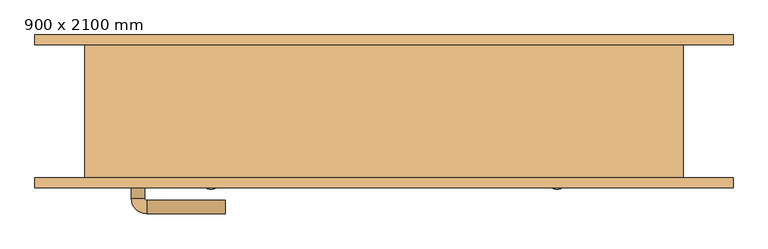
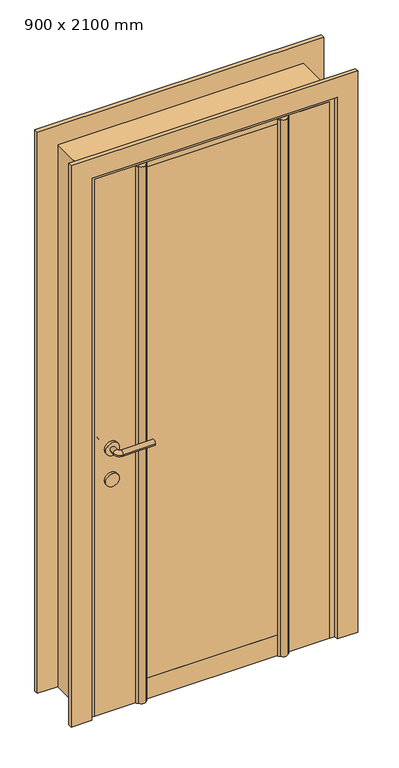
"""IFC4 building model written with IfcOpenShell, lengths in millimetres: door geometry, 单扇平开门-木门 : 900 x 2100 mm."""

import ifcopenshell
import ifcopenshell.guid

model = None  # the IFC model being written
_history = None  # IfcOwnerHistory: only IFC2X3 demands one
_inside = {}  # id of a spatial element -> (the spatial element, [elements in it])
_under = {}  # id of a project, library or spatial element -> (it, [spatial elements below it])
_declared = {}  # id of a project -> (the project, [libraries it declares])
_typed = {}  # id of a type object -> (the type object, [elements of that type])
_made_of = {}  # id of a material, layer set ... -> (it, [elements and type objects made of it])


def new_model(schema):
    """Start an empty IFC model of exactly this schema.

    Asked for "IFC4X3", IfcOpenShell would pick the latest addendum, in which some entities
    have other attributes; the version numbers below select the first issue.
    IFC2X3 requires an IfcOwnerHistory on every rooted entity: one is made here for all.
    """
    global model, _history
    if schema == "IFC4X3":
        model = ifcopenshell.file(schema_version=(4, 3, 0, 0))
    else:
        model = ifcopenshell.file(schema=schema)
    _inside.clear()
    _under.clear()
    _declared.clear()
    _typed.clear()
    _made_of.clear()
    _history = None
    if model.schema == "IFC2X3":
        org = make("IfcOrganization", Name="unknown")
        user = make(
            "IfcPersonAndOrganization",
            ThePerson=make("IfcPerson", FamilyName="unknown"),
            TheOrganization=org,
        )
        app = make(
            "IfcApplication",
            ApplicationDeveloper=org,
            Version="unknown",
            ApplicationFullName="unknown",
            ApplicationIdentifier="unknown",
        )
        _history = make(
            "IfcOwnerHistory",
            OwningUser=user,
            OwningApplication=app,
            ChangeAction="ADDED",
            CreationDate=0,
        )
    return model


def make(cls, **values):
    """One entity of the class cls with the attributes given. An attribute that is None is left unset."""
    return model.create_entity(
        cls, **{name: value for name, value in values.items() if value is not None}
    )


def rooted(cls, **values):
    """An entity with a GlobalId (a new one), such as an element, a storey or a relation."""
    return make(cls, GlobalId=ifcopenshell.guid.new(), OwnerHistory=_history, **values)


def si_unit(unit_type, name, prefix=None):
    """IfcSIUnit, for example si_unit("LENGTHUNIT", "METRE", prefix="MILLI")."""
    return make("IfcSIUnit", UnitType=unit_type, Prefix=prefix, Name=name)


def assignment(units):
    """IfcUnitAssignment: the units of a project."""
    return None if units is None else make("IfcUnitAssignment", Units=units)


def point(xyz):
    """IfcCartesianPoint."""
    return None if xyz is None else make("IfcCartesianPoint", Coordinates=xyz)


def direction(xyz):
    """IfcDirection."""
    return None if xyz is None else make("IfcDirection", DirectionRatios=xyz)


def frame(location, z_axis=None, x_axis=None):
    """IfcAxis2Placement3D, a coordinate frame: its origin and axes. An axis left out is left unset."""
    return make(
        "IfcAxis2Placement3D",
        Location=point(location),
        Axis=direction(z_axis),
        RefDirection=direction(x_axis),
    )


def frame_2d(location, x_axis=None):
    """IfcAxis2Placement2D, a coordinate frame in the plane: its origin and x axis."""
    return make(
        "IfcAxis2Placement2D", Location=point(location), RefDirection=direction(x_axis)
    )


def origin():
    """The frame at (0, 0, 0) with its axes left unset."""
    return frame((0.0, 0.0, 0.0))


def origin_with_axes():
    """The frame at (0, 0, 0) with the z axis (0, 0, 1) and the x axis (1, 0, 0) written out."""
    return frame((0.0, 0.0, 0.0), z_axis=(0.0, 0.0, 1.0), x_axis=(1.0, 0.0, 0.0))


def place(relative_to, where):
    """IfcLocalPlacement: puts the frame where relative to a parent placement (None: the world)."""
    return make(
        "IfcLocalPlacement", PlacementRelTo=relative_to, RelativePlacement=where
    )


def context(
    kind, dimensions, precision=None, world=None, true_north=None, identifier=None
):
    """IfcGeometricRepresentationContext, for example the 3D "Model" context."""
    return make(
        "IfcGeometricRepresentationContext",
        ContextIdentifier=identifier,
        ContextType=kind,
        CoordinateSpaceDimension=dimensions,
        Precision=precision,
        WorldCoordinateSystem=world,
        TrueNorth=true_north,
    )


def project(units=None, contexts=None):
    """IfcProject with its units and contexts."""
    return rooted(
        "IfcProject",
        Name="project",
        RepresentationContexts=contexts,
        UnitsInContext=assignment(units),
    )


def spatial(cls, under=None, at=None, **own):
    """A site, building, storey or space (cls), placed at a placement, below another one or the project."""
    s = rooted(cls, ObjectPlacement=at, **own)
    if under is not None:
        _under.setdefault(under.id(), (under, []))[1].append(s)
    return s


def polyline(points):
    """IfcPolyline through the points."""
    return make("IfcPolyline", Points=[point(p) for p in points])


def circle_curve(where, radius):
    """IfcCircle in the frame where."""
    return make("IfcCircle", Position=where, Radius=radius)


def ellipse_curve(where, semi_axis1, semi_axis2):
    """IfcEllipse in the frame where."""
    return make(
        "IfcEllipse", Position=where, SemiAxis1=semi_axis1, SemiAxis2=semi_axis2
    )


def trimmed(basis, trim1, trim2, sense, master):
    """IfcTrimmedCurve: the piece of a basis curve between two trims."""
    return make(
        "IfcTrimmedCurve",
        BasisCurve=basis,
        Trim1=trim1,
        Trim2=trim2,
        SenseAgreement=sense,
        MasterRepresentation=master,
    )


def segment(curve, same_sense, transition):
    """IfcCompositeCurveSegment."""
    return make(
        "IfcCompositeCurveSegment",
        Transition=transition,
        SameSense=same_sense,
        ParentCurve=curve,
    )


def composite_curve(segments, self_intersect=None):
    """IfcCompositeCurve: segments joined end to end."""
    return make("IfcCompositeCurve", Segments=segments, SelfIntersect=self_intersect)


def outline(outer, holes=None, kind="AREA"):
    """IfcArbitraryClosedProfileDef: a profile drawn as a closed curve; with holes, ...WithVoids."""
    if holes is None:
        return make("IfcArbitraryClosedProfileDef", ProfileType=kind, OuterCurve=outer)
    return make(
        "IfcArbitraryProfileDefWithVoids",
        ProfileType=kind,
        OuterCurve=outer,
        InnerCurves=holes,
    )


def extrude(swept, where, along, depth):
    """IfcExtrudedAreaSolid: the profile swept, set in the frame where, extruded along a direction by depth."""
    return make(
        "IfcExtrudedAreaSolid",
        SweptArea=swept,
        Position=where,
        ExtrudedDirection=direction(along),
        Depth=depth,
    )


def faces_of(points, faces, orient=None, outer=None):
    """IfcFace entities. A face is a list of loops; a loop is a list of indices into points, from 0.

    orient and outer hold one flag for each loop. By default every Orientation is true, the
    first loop of a face is its IfcFaceOuterBound and the others are IfcFaceBound.
    """
    made = []
    for i, loops in enumerate(faces):
        bounds = []
        for j, loop in enumerate(loops):
            is_outer = j == 0 if outer is None else outer[i][j]
            bounds.append(
                make(
                    "IfcFaceOuterBound" if is_outer else "IfcFaceBound",
                    Bound=make("IfcPolyLoop", Polygon=[points[k] for k in loop]),
                    Orientation=True if orient is None else orient[i][j],
                )
            )
        made.append(make("IfcFace", Bounds=bounds))
    return made


def faceted_brep(points, faces, orient=None, outer=None, voids=None):
    """IfcFacetedBrep: a solid bounded by flat faces; with voids (closed shells), ...WithVoids."""
    shared = [point(p) for p in points]
    hull = make("IfcClosedShell", CfsFaces=faces_of(shared, faces, orient, outer))
    if voids is None:
        return make("IfcFacetedBrep", Outer=hull)
    return make(
        "IfcFacetedBrepWithVoids",
        Outer=hull,
        Voids=[
            make(cls, CfsFaces=faces_of(shared, fs, o, b)) for cls, fs, o, b in voids
        ],
    )


def shape(context_of_items, identifier, shape_type, items):
    """IfcShapeRepresentation: the items that make up one representation, for example the "Body"."""
    return make(
        "IfcShapeRepresentation",
        ContextOfItems=context_of_items,
        RepresentationIdentifier=identifier,
        RepresentationType=shape_type,
        Items=items,
    )


def source(mapping_origin, context_of_items, identifier, shape_type, items):
    """IfcRepresentationMap: a shape defined once, which mapped items show again and again."""
    return make(
        "IfcRepresentationMap",
        MappingOrigin=mapping_origin,
        MappedRepresentation=shape(context_of_items, identifier, shape_type, items),
    )


def transform(
    local_origin,
    x_axis=None,
    y_axis=None,
    z_axis=None,
    scale=None,
    scale2=None,
    scale3=None,
    uniform=True,
):
    """IfcCartesianTransformationOperator3D, or its non-uniform kind. x_axis, y_axis, z_axis: its Axis1, 2, 3."""
    if uniform:
        return make(
            "IfcCartesianTransformationOperator3D",
            Axis1=direction(x_axis),
            Axis2=direction(y_axis),
            LocalOrigin=point(local_origin),
            Scale=scale,
            Axis3=direction(z_axis),
        )
    return make(
        "IfcCartesianTransformationOperator3DnonUniform",
        Axis1=direction(x_axis),
        Axis2=direction(y_axis),
        LocalOrigin=point(local_origin),
        Scale=scale,
        Axis3=direction(z_axis),
        Scale2=scale2,
        Scale3=scale3,
    )


def mapped(mapping_source, mapping_target):
    """IfcMappedItem: shows the shape of a source again, moved by a transform."""
    return make(
        "IfcMappedItem", MappingSource=mapping_source, MappingTarget=mapping_target
    )


def made_of(thing, what):
    """Note that an element or type object is made of a material, layer set ...; save() writes the relation."""
    if what is not None:
        _made_of.setdefault(what.id(), (what, []))[1].append(thing)
    return thing


def element(
    cls,
    number,
    at=None,
    inside=None,
    cuts=None,
    type_object=None,
    material=None,
    context=None,
    identifier="Body",
    shape_type=None,
    held_by="IfcProductDefinitionShape",
    body=None,
    shapes=None,
    **own,
):
    """One element of the class cls, such as IfcWall. Its Tag is "e" and its number.

    at: its placement. inside: the storey or other place that contains it. cuts: it is an
    opening in that element (IfcRelVoidsElement). A single representation is given by context,
    identifier, shape_type and body (its items); several are given by shapes. held_by: the class
    of the entity that holds the representations. save() writes the other relations.
    """
    e = rooted(cls, Tag="e%d" % number, ObjectPlacement=at, **own)
    if body is not None:
        shapes = [shape(context, identifier, shape_type, body)]
    if shapes is not None:
        e.Representation = make(held_by, Representations=shapes)
    if inside is not None:
        _inside.setdefault(inside.id(), (inside, []))[1].append(e)
    if cuts is not None:
        rooted(
            "IfcRelVoidsElement", RelatingBuildingElement=cuts, RelatedOpeningElement=e
        )
    if type_object is not None:
        _typed.setdefault(type_object.id(), (type_object, []))[1].append(e)
    return made_of(e, material)


def aggregate(whole, parts):
    """IfcRelAggregates: a whole, such as a stair, and the parts it consists of."""
    return rooted("IfcRelAggregates", RelatingObject=whole, RelatedObjects=parts)


def save(model, path):
    """Write the relations noted so far, then the file.

    IfcRelAggregates (storeys below a building ...), IfcRelContainedInSpatialStructure (elements
    in a storey), IfcRelDefinesByType, IfcRelAssociatesMaterial and IfcRelDeclares: one each for
    every whole, place, type object, material and project.
    """
    for whole, parts in _under.values():
        aggregate(whole, parts)
    for where, things in _inside.values():
        rooted(
            "IfcRelContainedInSpatialStructure",
            RelatedElements=things,
            RelatingStructure=where,
        )
    for kind, things in _typed.values():
        rooted("IfcRelDefinesByType", RelatedObjects=things, RelatingType=kind)
    for what, things in _made_of.values():
        rooted("IfcRelAssociatesMaterial", RelatedObjects=things, RelatingMaterial=what)
    for by, libraries in _declared.values():
        rooted("IfcRelDeclares", RelatingContext=by, RelatedDefinitions=libraries)
    model.write(path)


def plane_surface(at):
    """IfcPlane: the flat surface through the origin of the frame at, square to its z axis."""
    return make("IfcPlane", Position=at)


def cylinder_surface(at, radius):
    """IfcCylindricalSurface: all points at the distance radius from the z axis of the frame at."""
    return make("IfcCylindricalSurface", Position=at, Radius=radius)


def revolved_surface(curve, axis_point, axis_direction):
    """IfcSurfaceOfRevolution: the curve turned about the line through axis_point along axis_direction."""
    return make(
        "IfcSurfaceOfRevolution",
        SweptCurve=make("IfcArbitraryOpenProfileDef", ProfileType="CURVE", Curve=curve),
        AxisPosition=make("IfcAxis1Placement", Location=point(axis_point), Axis=direction(axis_direction)),
    )


def advanced_brep(points, edges, surfaces, faces):
    """IfcAdvancedBrep: a solid bounded by faces that lie on surfaces and meet in shared edges.

    An edge is (start, end): straight between two places in points (the first is 0);
    or (start, end, curve); or (start, end, curve, False) where it runs against its curve.
    A face is (place in surfaces, loops), or (place, loops, False) where it looks against
    its surface's normal. A loop lists edges by number (the first is 1), with a minus sign
    where the edge is run from its end to its start. The first loop is the outer one.
    """
    corners = [point(p) for p in points]
    vertices = [make("IfcVertexPoint", VertexGeometry=c) for c in corners]
    made = []
    for start, end, *more in edges:
        made.append(
            make(
                "IfcEdgeCurve",
                EdgeStart=vertices[start],
                EdgeEnd=vertices[end],
                EdgeGeometry=more[0] if more else make("IfcPolyline", Points=[corners[start], corners[end]]),
                SameSense=more[1] if len(more) > 1 else True,
            )
        )
    hull = []
    for where, loops, *sense in faces:
        bounds = []
        for j, loop in enumerate(loops):
            ring = [make("IfcOrientedEdge", EdgeElement=made[abs(k) - 1], Orientation=k > 0) for k in loop]
            bounds.append(
                make(
                    "IfcFaceOuterBound" if j == 0 else "IfcFaceBound",
                    Bound=make("IfcEdgeLoop", EdgeList=ring),
                    Orientation=True,
                )
            )
        hull.append(make("IfcAdvancedFace", Bounds=bounds, FaceSurface=surfaces[where], SameSense=sense[0] if sense else True))
    return make("IfcAdvancedBrep", Outer=make("IfcClosedShell", CfsFaces=hull))


def door_900_x_2100_mm_c85060e9(model_context):
    return source(origin(), model_context, "Body", "SolidModel", [
        extrude(outline(composite_curve([segment(trimmed(circle_curve(frame_2d((900.0, -370.0)), 25.0), [point((900.0, -345.0))], [point((900.0, -395.0))], False, "CARTESIAN"), True, "CONTINUOUS"), segment(trimmed(circle_curve(frame_2d((900.0, -370.0)), 25.0), [point((900.0, -395.0))], [point((900.0, -345.0))], False, "CARTESIAN"), True, "CONTINUOUS")], self_intersect=False)), frame((0.0, -65.0, 0.0), z_axis=(0.0, 1.0, 0.0), x_axis=(0.0, 0.0, 1.0)), (0.0, 0.0, 1.0), 10.0),
        extrude(outline(composite_curve([segment(trimmed(circle_curve(frame_2d((900.0, -370.0)), 25.0), [point((900.0, -345.0))], [point((900.0, -395.0))], False, "CARTESIAN"), True, "CONTINUOUS"), segment(trimmed(circle_curve(frame_2d((900.0, -370.0)), 25.0), [point((900.0, -395.0))], [point((900.0, -345.0))], False, "CARTESIAN"), True, "CONTINUOUS")], self_intersect=False)), frame((0.0, -110.0, 0.0), z_axis=(0.0, 1.0, 0.0), x_axis=(0.0, 0.0, 1.0)), (0.0, 0.0, 1.0), 10.0),
        advanced_brep(
        [(-380.0, -55.0, 1020.0), (-360.0, -55.0, 1020.0), (-380.0, -34.386645, 1020.0), (-360.0, -34.386645, 1020.0), (-238.419036, -11.419036, 1020.0), (-238.419036, -31.419036, 1020.0), (-357.0323911, -31.419036, 1020.0), (-357.0323911, -11.419036, 1020.0)],
        [
            (0, 1, circle_curve(frame((-370.0, -55.0, 1020.0), z_axis=(0.0, -1.0, 0.0), x_axis=(1.0, 0.0, 0.0)), 10.0)),
            (1, 0, circle_curve(frame((-370.0, -55.0, 1020.0), z_axis=(0.0, -1.0, 0.0), x_axis=(1.0, 0.0, 0.0)), 10.0)),
            (0, 2),
            (2, 3, circle_curve(frame((-370.0, -34.386645, 1020.0), z_axis=(0.0, -1.0, 0.0), x_axis=(1.0, 0.0, 0.0)), 10.0)),
            (3, 1),
            (3, 2, circle_curve(frame((-370.0, -34.386645, 1020.0), z_axis=(0.0, -1.0, 0.0), x_axis=(1.0, 0.0, 0.0)), 10.0)),
            (4, 5, circle_curve(frame((-238.419036, -21.419036, 1020.0), z_axis=(1.0, 0.0, 0.0), x_axis=(0.0, -1.0, 0.0)), 10.0)),
            (5, 4, circle_curve(frame((-238.419036, -21.419036, 1020.0), z_axis=(1.0, 0.0, 0.0), x_axis=(0.0, -1.0, 0.0)), 10.0)),
            (6, 7, circle_curve(frame((-357.0323911, -21.419036, 1020.0), z_axis=(-1.0, 0.0, 0.0), x_axis=(0.0, -1.0, 0.0)), 10.0)),
            (7, 2, circle_curve(frame((-357.0323911, -34.386645, 1020.0), z_axis=(0.0, 0.0, 1.0), x_axis=(-1.0, 0.0, 0.0)), 22.9676089)),
            (3, 6, circle_curve(frame((-357.0323911, -34.386645, 1020.0), z_axis=(0.0, 0.0, -1.0), x_axis=(-1.0, 0.0, 0.0)), 2.9676089)),
            (7, 6, circle_curve(frame((-357.0323911, -21.419036, 1020.0), z_axis=(-1.0, 0.0, 0.0), x_axis=(0.0, -1.0, 0.0)), 10.0)),
            (6, 5),
            (4, 7),
        ],
        [
            plane_surface(frame((-370.0, -55.0, 900.0), z_axis=(0.0, -1.0, 0.0), x_axis=(0.0, 0.0, 1.0))),
            cylinder_surface(frame((-370.0, -55.0, 1020.0), z_axis=(0.0, -1.0, 0.0), x_axis=(1.0, 0.0, 0.0)), 10.0),
            plane_surface(frame((-238.419036, -21.419036, 900.0), z_axis=(1.0, 0.0, 0.0), x_axis=(0.0, 0.0, 1.0))),
            revolved_surface(trimmed(ellipse_curve(frame((-370.0, -34.386645, 1020.0), z_axis=(0.0, 1.0, 0.0), x_axis=(1.0, 0.0, 0.0)), 10.0, 10.0), [point((-380.0, -34.386645, 1020.0))], [point((-360.0, -34.386645, 1020.0))], True, "CARTESIAN"), (-357.0323911, -34.386645, 900.0), (0.0, 0.0, 1.0)),
            revolved_surface(trimmed(ellipse_curve(frame((-370.0, -34.386645, 1020.0), z_axis=(0.0, 1.0, 0.0), x_axis=(1.0, 0.0, 0.0)), 10.0, 10.0), [point((-360.0, -34.386645, 1020.0))], [point((-380.0, -34.386645, 1020.0))], True, "CARTESIAN"), (-357.0323911, -34.386645, 900.0), (0.0, 0.0, 1.0)),
            cylinder_surface(frame((-357.0323911, -21.419036, 1020.0), z_axis=(-1.0, 0.0, 0.0), x_axis=(0.0, -1.0, 0.0)), 10.0),
        ],
        [
            (0, [[1, 2]]),
            (1, [[3, 4, 5, -1]]),
            (1, [[-5, 6, -3, -2]]),
            (2, [[7, 8]]),
            (3, [[9, 10, -6, 11]]),
            (4, [[12, -11, -4, -10]]),
            (5, [[13, -7, 14, -9]]),
            (5, [[-14, -8, -13, -12]]),
        ],
    ),
        extrude(outline(composite_curve([segment(trimmed(circle_curve(frame_2d((1020.0, -370.0)), 25.0), [point((1020.0, -345.0))], [point((1020.0, -395.0))], False, "CARTESIAN"), True, "CONTINUOUS"), segment(trimmed(circle_curve(frame_2d((1020.0, -370.0)), 25.0), [point((1020.0, -395.0))], [point((1020.0, -345.0))], False, "CARTESIAN"), True, "CONTINUOUS")], self_intersect=False)), frame((0.0, -65.0, 0.0), z_axis=(0.0, 1.0, 0.0), x_axis=(0.0, 0.0, 1.0)), (0.0, 0.0, 1.0), 10.0),
        advanced_brep(
        [(-360.0, -110.0, 1020.0), (-380.0, -110.0, 1020.0), (-380.0, -130.6133551, 1020.0), (-360.0, -130.6133551, 1020.0), (-238.419036, -133.580964, 1020.0), (-238.419036, -153.580964, 1020.0), (-357.0323911, -153.580964, 1020.0), (-357.0323911, -133.580964, 1020.0)],
        [
            (0, 1, circle_curve(frame((-370.0, -110.0, 1020.0), z_axis=(0.0, 1.0, 0.0), x_axis=(-1.0, 0.0, 0.0)), 10.0)),
            (1, 0, circle_curve(frame((-370.0, -110.0, 1020.0), z_axis=(0.0, 1.0, 0.0), x_axis=(-1.0, 0.0, 0.0)), 10.0)),
            (1, 2),
            (2, 3, circle_curve(frame((-370.0, -130.6133551, 1020.0), z_axis=(0.0, 1.0, 0.0), x_axis=(-1.0, 0.0, 0.0)), 10.0)),
            (3, 0),
            (3, 2, circle_curve(frame((-370.0, -130.6133551, 1020.0), z_axis=(0.0, 1.0, 0.0), x_axis=(-1.0, 0.0, 0.0)), 10.0)),
            (4, 5, circle_curve(frame((-238.419036, -143.580964, 1020.0), z_axis=(1.0, 0.0, 0.0), x_axis=(0.0, -1.0, 0.0)), 10.0)),
            (5, 4, circle_curve(frame((-238.419036, -143.580964, 1020.0), z_axis=(1.0, 0.0, 0.0), x_axis=(0.0, -1.0, 0.0)), 10.0)),
            (6, 7, circle_curve(frame((-357.0323911, -143.580964, 1020.0), z_axis=(-1.0, 0.0, 0.0), x_axis=(0.0, -1.0, 0.0)), 10.0)),
            (7, 3, circle_curve(frame((-357.0323911, -130.6133551, 1020.0), z_axis=(0.0, 0.0, -1.0), x_axis=(-1.0, 0.0, 0.0)), 2.9676089)),
            (2, 6, circle_curve(frame((-357.0323911, -130.6133551, 1020.0), z_axis=(0.0, 0.0, 1.0), x_axis=(-1.0, 0.0, 0.0)), 22.9676089)),
            (7, 6, circle_curve(frame((-357.0323911, -143.580964, 1020.0), z_axis=(-1.0, 0.0, 0.0), x_axis=(0.0, -1.0, 0.0)), 10.0)),
            (6, 5),
            (4, 7),
        ],
        [
            plane_surface(frame((-370.0, -110.0, 900.0), z_axis=(0.0, 1.0, 0.0), x_axis=(0.0, 0.0, 1.0))),
            cylinder_surface(frame((-370.0, -110.0, 1020.0), z_axis=(0.0, 1.0, 0.0), x_axis=(-1.0, 0.0, 0.0)), 10.0),
            plane_surface(frame((-238.419036, -143.580964, 900.0), z_axis=(1.0, 0.0, 0.0), x_axis=(0.0, 0.0, 1.0))),
            revolved_surface(trimmed(ellipse_curve(frame((-370.0, -130.6133551, 1020.0), z_axis=(0.0, -1.0, 0.0), x_axis=(-1.0, 0.0, 0.0)), 10.0, 10.0), [point((-360.0, -130.6133551, 1020.0))], [point((-380.0, -130.6133551, 1020.0))], True, "CARTESIAN"), (-357.0323911, -130.6133551, 900.0), (0.0, 0.0, -1.0)),
            revolved_surface(trimmed(ellipse_curve(frame((-370.0, -130.6133551, 1020.0), z_axis=(0.0, -1.0, 0.0), x_axis=(-1.0, 0.0, 0.0)), 10.0, 10.0), [point((-380.0, -130.6133551, 1020.0))], [point((-360.0, -130.6133551, 1020.0))], True, "CARTESIAN"), (-357.0323911, -130.6133551, 900.0), (0.0, 0.0, -1.0)),
            cylinder_surface(frame((-357.0323911, -143.580964, 1020.0), z_axis=(-1.0, 0.0, 0.0), x_axis=(0.0, -1.0, 0.0)), 10.0),
        ],
        [
            (0, [[1, 2]]),
            (1, [[3, 4, 5, -2]]),
            (1, [[-5, 6, -3, -1]]),
            (2, [[7, 8]]),
            (3, [[9, 10, -4, 11]]),
            (4, [[12, -11, -6, -10]]),
            (5, [[13, -7, 14, -9]]),
            (5, [[-14, -8, -13, -12]]),
        ],
    ),
        extrude(outline(composite_curve([segment(trimmed(circle_curve(frame_2d((1020.0, -370.0)), 25.0), [point((1020.0, -345.0))], [point((1020.0, -395.0))], False, "CARTESIAN"), True, "CONTINUOUS"), segment(trimmed(circle_curve(frame_2d((1020.0, -370.0)), 25.0), [point((1020.0, -395.0))], [point((1020.0, -345.0))], False, "CARTESIAN"), True, "CONTINUOUS")], self_intersect=False)), frame((0.0, -110.0, 0.0), z_axis=(0.0, 1.0, 0.0), x_axis=(0.0, 0.0, 1.0)), (0.0, 0.0, 1.0), 10.0),
        extrude(outline(polyline([(2100.0, -450.0), (2100.0, 450.0), (0.0, 450.0), (0.0, 525.0), (2175.0, 525.0), (2175.0, -525.0), (0.0, -525.0), (0.0, -450.0), (2100.0, -450.0)])), frame((0.0, -115.0, 0.0), z_axis=(0.0, 1.0, 0.0), x_axis=(0.0, 0.0, 1.0)), (0.0, 0.0, 1.0), 15.0),
        extrude(outline(polyline([(2175.0, -525.0), (0.0, -525.0), (0.0, -450.0), (2100.0, -450.0), (2100.0, 450.0), (0.0, 450.0), (0.0, 525.0), (2175.0, 525.0), (2175.0, -525.0)])), frame((0.0, 100.0, 0.0), z_axis=(0.0, 1.0, 0.0), x_axis=(0.0, 0.0, 1.0)), (0.0, 0.0, 1.0), 15.0),
        extrude(outline(polyline([(2080.0, 430.0), (2080.0, -430.0), (0.0, -430.0), (0.0, 430.0), (2080.0, 430.0)]), holes=[polyline([(2060.0, 280.0), (80.0, 280.0), (80.0, -280.0), (2060.0, -280.0), (2060.0, 280.0)])]), frame((0.0, -100.0, 0.0), z_axis=(0.0, 1.0, 0.0), x_axis=(0.0, 0.0, 1.0)), (0.0, 0.0, 1.0), 35.0),
        extrude(outline(composite_curve([segment(polyline([(-280.0, -100.0), (-240.0, -100.0), (-240.0, -101.0)]), True, "CONTINUOUS"), segment(trimmed(circle_curve(frame_2d((-247.0, -101.0)), 7.0), [point((-240.0, -101.0))], [point((-247.0, -108.0))], False, "CARTESIAN"), True, "CONTINUOUS"), segment(trimmed(circle_curve(frame_2d((-260.0, -103.3201295)), 13.8166996), [point((-247.0, -108.0))], [point((-273.0, -108.0))], False, "CARTESIAN"), True, "CONTINUOUS"), segment(trimmed(circle_curve(frame_2d((-273.0, -101.0)), 7.0), [point((-273.0, -108.0))], [point((-280.0, -101.0))], False, "CARTESIAN"), True, "CONTINUOUS"), segment(polyline([(-280.0, -101.0), (-280.0, -100.0)]), True, "CONTINUOUS")], self_intersect=False)), origin_with_axes(), (0.0, 0.0, 1.0), 2080.0),
        extrude(outline(composite_curve([segment(polyline([(280.0, -100.0), (280.0, -101.0)]), True, "CONTINUOUS"), segment(trimmed(circle_curve(frame_2d((273.0, -101.0)), 7.0), [point((280.0, -101.0))], [point((273.0, -108.0))], False, "CARTESIAN"), True, "CONTINUOUS"), segment(trimmed(circle_curve(frame_2d((260.0, -103.3201295)), 13.8166996), [point((273.0, -108.0))], [point((247.0, -108.0))], False, "CARTESIAN"), True, "CONTINUOUS"), segment(trimmed(circle_curve(frame_2d((247.0, -101.0)), 7.0), [point((247.0, -108.0))], [point((240.0, -101.0))], False, "CARTESIAN"), True, "CONTINUOUS"), segment(polyline([(240.0, -101.0), (240.0, -100.0), (280.0, -100.0)]), True, "CONTINUOUS")], self_intersect=False)), origin_with_axes(), (0.0, 0.0, 1.0), 2080.0),
        extrude(outline(polyline([(280.0, -100.0), (-280.0, -100.0), (-280.0, -65.0), (280.0, -65.0), (280.0, -100.0)])), frame((0.0, 0.0, 80.0), z_axis=(0.0, 0.0, 1.0), x_axis=(1.0, 0.0, 0.0)), (0.0, 0.0, 1.0), 1980.0),
        faceted_brep([(450.0, -100.0, 0.0), (430.0, -100.0, 0.0), (430.0, -65.0, 0.0), (415.0, -65.0, 0.0), (415.0, 65.0, 0.0), (430.0, 65.0, 0.0), (430.0, 100.0, 0.0), (450.0, 100.0, 0.0), (450.0, 100.0, 2100.0), (450.0, -100.0, 2100.0), (430.0, 100.0, 2080.0), (-430.0, 100.0, 2080.0), (-430.0, 100.0, 0.0), (-450.0, 100.0, 0.0), (-450.0, 100.0, 2100.0), (430.0, 65.0, 2080.0), (415.0, 65.0, 2065.0), (-415.0, 65.0, 2065.0), (-415.0, 65.0, 0.0), (-430.0, 65.0, 0.0), (-430.0, 65.0, 2080.0), (415.0, -65.0, 2065.0), (430.0, -65.0, 2080.0), (-430.0, -65.0, 2080.0), (-430.0, -65.0, 0.0), (-415.0, -65.0, 0.0), (-415.0, -65.0, 2065.0), (430.0, -100.0, 2080.0), (-450.0, -100.0, 2100.0), (-450.0, -100.0, 0.0), (-430.0, -100.0, 0.0), (-430.0, -100.0, 2080.0)], [[[0, 1, 2, 3, 4, 5, 6, 7]], [[7, 8, 9, 0]], [[6, 10, 11, 12, 13, 14, 8, 7]], [[5, 15, 10, 6]], [[4, 16, 17, 18, 19, 20, 15, 5]], [[3, 21, 16, 4]], [[2, 22, 23, 24, 25, 26, 21, 3]], [[1, 27, 22, 2]], [[0, 9, 28, 29, 30, 31, 27, 1]], [[8, 14, 28, 9]], [[15, 20, 11, 10]], [[21, 26, 17, 16]], [[27, 31, 23, 22]], [[29, 13, 12, 19, 18, 25, 24, 30]], [[14, 13, 29, 28]], [[20, 19, 12, 11]], [[26, 25, 18, 17]], [[31, 30, 24, 23]]]),
    ])


if __name__ == "__main__":
    model = new_model("IFC4")
    model_context = context("Model", 3, world=origin())
    ifc_project = project(units=[si_unit("LENGTHUNIT", "METRE", prefix="MILLI")], contexts=[model_context])
    site = spatial("IfcSite", under=ifc_project)
    building = spatial("IfcBuilding", under=site)
    placement = place(None, origin())
    door_900_x_2100_mm_shape = door_900_x_2100_mm_c85060e9(model_context)
    element("IfcDoor", 1, ObjectType="单扇平开门-木门 : 900 x 2100 mm", at=placement, inside=building, context=model_context, shape_type="MappedRepresentation", body=[
        mapped(door_900_x_2100_mm_shape, transform((0.0, 0.0, 0.0), x_axis=(1.0, 0.0, 0.0), y_axis=(0.0, 1.0, 0.0), z_axis=(0.0, 0.0, 1.0))),
    ])
    save(model, "model.ifc")
